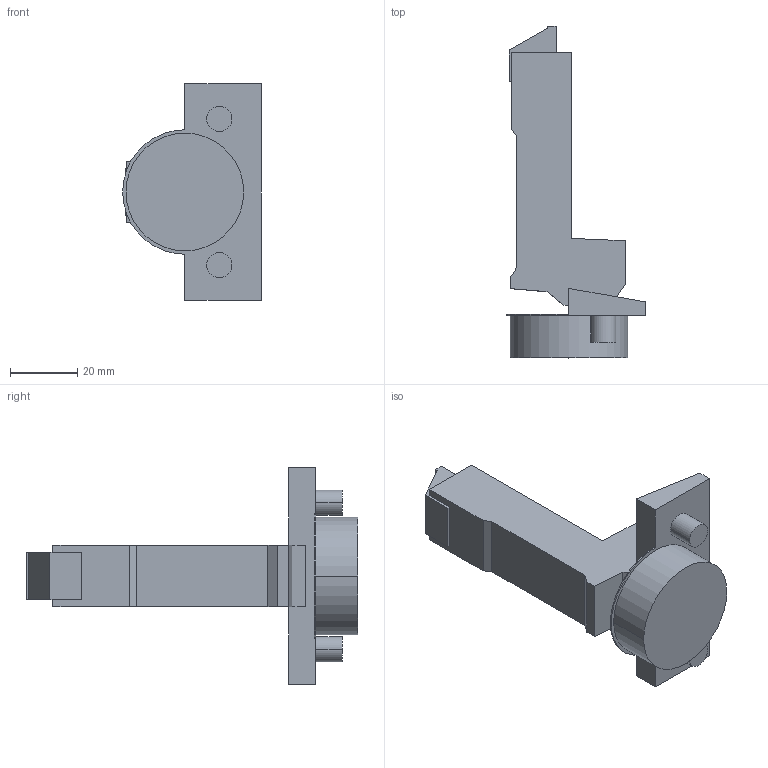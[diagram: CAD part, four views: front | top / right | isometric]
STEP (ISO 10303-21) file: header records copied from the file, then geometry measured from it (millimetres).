
FILE_DESCRIPTION (( 'STEP AP214' ), '1' );
FILE_NAME ('Scharnier TS Impresso 120° GB_BB, K19.step', '2010-12-06T09:57:45', ( 'grass' ), ( '' ), 'SwSTEP 2.0', 'SolidWorks 2010', '' );
FILE_SCHEMA (( 'AUTOMOTIVE_DESIGN' ));
Length unit declared in the file: millimetre
Products named in the file (1): Scharnier TS Impresso 120° GB_BB, K19
Bounding box: 41.25 x 98.7 x 64.5 mm (x, y, z)
Volume: 49467.7 mm3; surface area: 13539.1 mm2
Topology: 1 solids, 3 shells, 61 faces, 147 edges, 98 vertices
Faces by surface type: plane 43, cylinder 18
Entity records: 1807 total; most frequent: CARTESIAN_POINT 307, DIRECTION 307, ORIENTED_EDGE 294, EDGE_CURVE 147, LINE 111, VECTOR 111, VERTEX_POINT 98, AXIS2_PLACEMENT_3D 98
